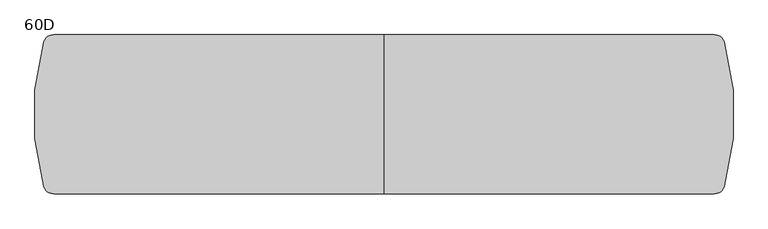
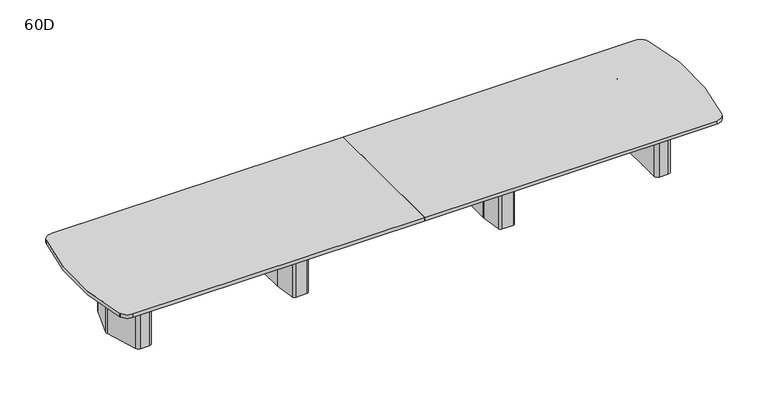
"""IFC4 building model written with IfcOpenShell, lengths in millimetres: furniture geometry, Coalesse_AM_Table_Conference_ETable2_SoftRadiused_22ft_FourBase : 60D."""

from ifc_helpers import new_model, si_unit, point, frame, frame_2d, origin, origin_with_axes, place, context, project, spatial, polyline, circle_curve, trimmed, segment, composite_curve, outline, extrude, source, transform, mapped, element, save
from ifc_brep_helpers import plane_surface, cylinder_surface, revolved_surface, advanced_brep


def furniture_60d_b9d1f58f(model_context):
    return source(origin(), model_context, "Body", "SolidModel", [
        advanced_brep(
        [(1178.6357815, 381.0, 698.5), (1056.5642185, 381.0, 698.5), (1031.4114006, 359.1349332, 698.5), (1000.3721821, 138.2753661, 698.5), (1000.125, 134.740433, 698.5), (1000.125, -134.7404196, 698.5), (1000.3721537, -138.2751502, 698.5), (1031.4095605, -359.1347306, 698.5), (1056.5624068, -381.0, 698.5), (1178.6375932, -381.0, 698.5), (1203.7904395, -359.1347306, 698.5), (1234.8278463, -138.2751502, 698.5), (1235.075, -134.7404196, 698.5), (1235.075, 134.740433, 698.5), (1234.8278179, 138.2753661, 698.5), (1203.7885994, 359.1349332, 698.5), (1143.0, 314.325, 698.5), (1168.4, 288.925, 698.5), (1168.4, -288.925, 698.5), (1143.0, -314.325, 698.5), (1092.2, -314.325, 698.5), (1066.8, -288.925, 698.5), (1066.8, 288.925, 698.5), (1092.2, 314.325, 698.5), (1178.6357815, 381.0, 3.175), (1203.7885994, 359.1349332, 3.175), (1234.8278179, 138.2753661, 3.175), (1235.075, 134.740433, 3.175), (1235.075, -134.7404196, 3.175), (1234.8278463, -138.2751502, 3.175), (1203.7904395, -359.1347306, 3.175), (1178.6375932, -381.0, 3.175), (1056.5624068, -381.0, 3.175), (1031.4095605, -359.1347306, 3.175), (1000.3721537, -138.2751502, 3.175), (1000.125, -134.7404196, 3.175), (1000.125, 134.740433, 3.175), (1000.3721821, 138.2753661, 3.175), (1031.4114006, 359.1349332, 3.175), (1056.5642185, 381.0, 3.175), (1143.0, 327.025, 3.175), (1092.2, 327.025, 3.175), (1054.1, 288.925, 3.175), (1054.1, -288.925, 3.175), (1092.2, -327.025, 3.175), (1143.0, -327.025, 3.175), (1181.1, -288.925, 3.175), (1181.1, 288.925, 3.175), (1143.0, 314.325, 3.175), (1168.4, 288.925, 3.175), (1168.4, -288.925, 3.175), (1143.0, -314.325, 3.175), (1092.2, -314.325, 3.175), (1066.8, -288.925, 3.175), (1066.8, 288.925, 3.175), (1092.2, 314.325, 3.175), (1143.0, 327.025, 0.0), (1181.1, 288.925, 0.0), (1181.1, -288.925, 0.0), (1143.0, -327.025, 0.0), (1092.2, -327.025, 0.0), (1054.1, -288.925, 0.0), (1054.1, 288.925, 0.0), (1092.2, 327.025, 0.0)],
        [
            (0, 1),
            (1, 2, circle_curve(frame((1056.5642185, 355.6, 698.5), z_axis=(0.0, 0.0, 1.0), x_axis=(1.0, 0.0, 0.0)), 25.4)),
            (2, 3),
            (3, 4, circle_curve(frame((1025.525, 134.740433, 698.5), z_axis=(0.0, 0.0, 1.0), x_axis=(1.0, 0.0, 0.0)), 25.4)),
            (4, 5),
            (5, 6, circle_curve(frame((1025.525, -134.7404196, 698.5), z_axis=(0.0, 0.0, 1.0), x_axis=(1.0, 0.0, 0.0)), 25.4)),
            (6, 7),
            (7, 8, circle_curve(frame((1056.5624068, -355.6, 698.5), z_axis=(0.0, 0.0, 1.0), x_axis=(1.0, 0.0, 0.0)), 25.4)),
            (8, 9),
            (9, 10, circle_curve(frame((1178.6375932, -355.6, 698.5), z_axis=(0.0, 0.0, 1.0), x_axis=(1.0, 0.0, 0.0)), 25.4)),
            (10, 11),
            (11, 12, circle_curve(frame((1209.675, -134.7404196, 698.5), z_axis=(0.0, 0.0, 1.0), x_axis=(1.0, 0.0, 0.0)), 25.4)),
            (12, 13),
            (13, 14, circle_curve(frame((1209.675, 134.740433, 698.5), z_axis=(0.0, 0.0, 1.0), x_axis=(1.0, 0.0, 0.0)), 25.4)),
            (14, 15),
            (15, 0, circle_curve(frame((1178.6357815, 355.6, 698.5), z_axis=(0.0, 0.0, 1.0), x_axis=(1.0, 0.0, 0.0)), 25.4)),
            (16, 17, circle_curve(frame((1143.0, 288.925, 698.5), z_axis=(0.0, 0.0, -1.0), x_axis=(1.0, 0.0, 0.0)), 25.4)),
            (17, 18),
            (18, 19, circle_curve(frame((1143.0, -288.925, 698.5), z_axis=(0.0, 0.0, -1.0), x_axis=(1.0, 0.0, 0.0)), 25.4)),
            (19, 20),
            (20, 21, circle_curve(frame((1092.2, -288.925, 698.5), z_axis=(0.0, 0.0, -1.0), x_axis=(1.0, 0.0, 0.0)), 25.4)),
            (21, 22),
            (22, 23, circle_curve(frame((1092.2, 288.925, 698.5), z_axis=(0.0, 0.0, -1.0), x_axis=(1.0, 0.0, 0.0)), 25.4)),
            (23, 16),
            (24, 25, circle_curve(frame((1178.6357815, 355.6, 3.175), z_axis=(0.0, 0.0, -1.0), x_axis=(1.0, 0.0, 0.0)), 25.4)),
            (25, 26),
            (26, 27, circle_curve(frame((1209.675, 134.740433, 3.175), z_axis=(0.0, 0.0, -1.0), x_axis=(1.0, 0.0, 0.0)), 25.4)),
            (27, 28),
            (28, 29, circle_curve(frame((1209.675, -134.7404196, 3.175), z_axis=(0.0, 0.0, -1.0), x_axis=(1.0, 0.0, 0.0)), 25.4)),
            (29, 30),
            (30, 31, circle_curve(frame((1178.6375932, -355.6, 3.175), z_axis=(0.0, 0.0, -1.0), x_axis=(1.0, 0.0, 0.0)), 25.4)),
            (31, 32),
            (32, 33, circle_curve(frame((1056.5624068, -355.6, 3.175), z_axis=(0.0, 0.0, -1.0), x_axis=(1.0, 0.0, 0.0)), 25.4)),
            (33, 34),
            (34, 35, circle_curve(frame((1025.525, -134.7404196, 3.175), z_axis=(0.0, 0.0, -1.0), x_axis=(1.0, 0.0, 0.0)), 25.4)),
            (35, 36),
            (36, 37, circle_curve(frame((1025.525, 134.740433, 3.175), z_axis=(0.0, 0.0, -1.0), x_axis=(1.0, 0.0, 0.0)), 25.4)),
            (37, 38),
            (38, 39, circle_curve(frame((1056.5642185, 355.6, 3.175), z_axis=(0.0, 0.0, -1.0), x_axis=(1.0, 0.0, 0.0)), 25.4)),
            (39, 24),
            (40, 41),
            (41, 42, circle_curve(frame((1092.2, 288.925, 3.175), z_axis=(0.0, 0.0, 1.0), x_axis=(1.0, 0.0, 0.0)), 38.1)),
            (42, 43),
            (43, 44, circle_curve(frame((1092.2, -288.925, 3.175), z_axis=(0.0, 0.0, 1.0), x_axis=(1.0, 0.0, 0.0)), 38.1)),
            (44, 45),
            (45, 46, circle_curve(frame((1143.0, -288.925, 3.175), z_axis=(0.0, 0.0, 1.0), x_axis=(1.0, 0.0, 0.0)), 38.1)),
            (46, 47),
            (47, 40, circle_curve(frame((1143.0, 288.925, 3.175), z_axis=(0.0, 0.0, 1.0), x_axis=(1.0, 0.0, 0.0)), 38.1)),
            (0, 24),
            (39, 1),
            (38, 2),
            (37, 3),
            (36, 4),
            (35, 5),
            (34, 6),
            (33, 7),
            (32, 8),
            (31, 9),
            (30, 10),
            (29, 11),
            (28, 12),
            (27, 13),
            (26, 14),
            (25, 15),
            (16, 48),
            (48, 49, circle_curve(frame((1143.0, 288.925, 3.175), z_axis=(0.0, 0.0, -1.0), x_axis=(1.0, 0.0, 0.0)), 25.4)),
            (49, 17),
            (49, 50),
            (50, 18),
            (50, 51, circle_curve(frame((1143.0, -288.925, 3.175), z_axis=(0.0, 0.0, -1.0), x_axis=(1.0, 0.0, 0.0)), 25.4)),
            (51, 19),
            (51, 52),
            (52, 20),
            (52, 53, circle_curve(frame((1092.2, -288.925, 3.175), z_axis=(0.0, 0.0, -1.0), x_axis=(1.0, 0.0, 0.0)), 25.4)),
            (53, 21),
            (53, 54),
            (54, 22),
            (54, 55, circle_curve(frame((1092.2, 288.925, 3.175), z_axis=(0.0, 0.0, -1.0), x_axis=(1.0, 0.0, 0.0)), 25.4)),
            (55, 23),
            (55, 48),
            (56, 57, circle_curve(frame((1143.0, 288.925, 0.0), z_axis=(0.0, 0.0, -1.0), x_axis=(1.0, 0.0, 0.0)), 38.1)),
            (57, 58),
            (58, 59, circle_curve(frame((1143.0, -288.925, 0.0), z_axis=(0.0, 0.0, -1.0), x_axis=(1.0, 0.0, 0.0)), 38.1)),
            (59, 60),
            (60, 61, circle_curve(frame((1092.2, -288.925, 0.0), z_axis=(0.0, 0.0, -1.0), x_axis=(1.0, 0.0, 0.0)), 38.1)),
            (61, 62),
            (62, 63, circle_curve(frame((1092.2, 288.925, 0.0), z_axis=(0.0, 0.0, -1.0), x_axis=(1.0, 0.0, 0.0)), 38.1)),
            (63, 56),
            (63, 41),
            (40, 56),
            (62, 42),
            (61, 43),
            (60, 44),
            (59, 45),
            (58, 46),
            (57, 47),
        ],
        [
            plane_surface(frame((-406.4, 381.0, 698.5), z_axis=(0.0, 0.0, 1.0), x_axis=(-1.0, 0.0, 0.0))),
            plane_surface(frame((-406.4, 381.0, 3.175), z_axis=(0.0, 0.0, -1.0), x_axis=(1.0, 0.0, 0.0))),
            plane_surface(frame((1178.6357815, 381.0, 698.5), z_axis=(0.0, 1.0, 0.0), x_axis=(0.0, 0.0, -1.0))),
            cylinder_surface(frame((1056.5642185, 355.6, 3.175), z_axis=(0.0, 0.0, 1.0), x_axis=(1.0, 0.0, 0.0)), 25.4),
            plane_surface(frame((1031.4114006, 359.1349332, 698.5), z_axis=(-0.9902684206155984, 0.13917059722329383, 0.0), x_axis=(0.0, 0.0, -1.0))),
            cylinder_surface(frame((1025.525, 134.740433, 3.175), z_axis=(0.0, 0.0, 1.0), x_axis=(1.0, 0.0, 0.0)), 25.4),
            plane_surface(frame((1000.125, 134.740433, 698.5), z_axis=(-1.0, 0.0, 0.0), x_axis=(0.0, 0.0, -1.0))),
            cylinder_surface(frame((1025.525, -134.7404196, 3.175), z_axis=(0.0, 0.0, 1.0), x_axis=(1.0, 0.0, 0.0)), 25.4),
            plane_surface(frame((1000.3721537, -138.2751502, 698.5), z_axis=(-0.9902695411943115, -0.1391626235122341, 0.0), x_axis=(0.0, 0.0, -1.0))),
            cylinder_surface(frame((1056.5624068, -355.6, 3.175), z_axis=(0.0, 0.0, 1.0), x_axis=(1.0, 0.0, 0.0)), 25.4),
            plane_surface(frame((1056.5624068, -381.0, 698.5), z_axis=(0.0, -1.0, 0.0), x_axis=(0.0, 0.0, -1.0))),
            cylinder_surface(frame((1178.6375932, -355.6, 3.175), z_axis=(0.0, 0.0, 1.0), x_axis=(1.0, 0.0, 0.0)), 25.4),
            plane_surface(frame((1203.7904395, -359.1347306, 698.5), z_axis=(0.9902695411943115, -0.1391626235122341, 0.0), x_axis=(0.0, 0.0, -1.0))),
            cylinder_surface(frame((1209.675, -134.7404196, 3.175), z_axis=(0.0, 0.0, 1.0), x_axis=(1.0, 0.0, 0.0)), 25.4),
            plane_surface(frame((1235.075, -134.7404196, 698.5), z_axis=(1.0, 0.0, 0.0), x_axis=(0.0, 0.0, -1.0))),
            cylinder_surface(frame((1209.675, 134.740433, 3.175), z_axis=(0.0, 0.0, 1.0), x_axis=(1.0, 0.0, 0.0)), 25.4),
            plane_surface(frame((1234.8278179, 138.2753661, 698.5), z_axis=(0.9902684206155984, 0.13917059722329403, 0.0), x_axis=(0.0, 0.0, -1.0))),
            cylinder_surface(frame((1178.6357815, 355.6, 3.175), z_axis=(0.0, 0.0, 1.0), x_axis=(1.0, 0.0, 0.0)), 25.4),
            revolved_surface(polyline([(1168.4, 288.925, 3.175), (1168.4, 288.925, 698.5)]), (1143.0, 288.925, 0.0), (0.0, 0.0, -1.0)),
            plane_surface(frame((1168.4, 288.925, 698.5), z_axis=(-1.0, 0.0, 0.0), x_axis=(0.0, 0.0, -1.0))),
            revolved_surface(polyline([(1168.4, -288.925, 3.175), (1168.4, -288.925, 698.5)]), (1143.0, -288.925, 0.0), (0.0, 0.0, -1.0)),
            plane_surface(frame((1143.0, -314.325, 698.5), z_axis=(0.0, 1.0, 0.0), x_axis=(0.0, 0.0, -1.0))),
            revolved_surface(polyline([(1117.6000000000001, -288.925, 3.175), (1117.6000000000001, -288.925, 698.5)]), (1092.2, -288.925, 0.0), (0.0, 0.0, -1.0)),
            plane_surface(frame((1066.8, -288.925, 698.5), z_axis=(1.0, 0.0, 0.0), x_axis=(0.0, 0.0, -1.0))),
            revolved_surface(polyline([(1117.6000000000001, 288.925, 3.175), (1117.6000000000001, 288.925, 698.5)]), (1092.2, 288.925, 0.0), (0.0, 0.0, -1.0)),
            plane_surface(frame((1092.2, 314.325, 698.5), z_axis=(0.0, -1.0, 0.0), x_axis=(0.0, 0.0, -1.0))),
            plane_surface(frame((1066.8, 327.025, 3.175), z_axis=(0.0, 0.0, 1.0), x_axis=(-1.0, 0.0, 0.0))),
            plane_surface(frame((1066.8, 327.025, 0.0), z_axis=(0.0, 0.0, -1.0), x_axis=(1.0, 0.0, 0.0))),
            plane_surface(frame((1143.0, 327.025, 3.175), z_axis=(0.0, 1.0, 0.0), x_axis=(0.0, 0.0, -1.0))),
            cylinder_surface(frame((1092.2, 288.925, 0.0), z_axis=(0.0, 0.0, 1.0), x_axis=(1.0, 0.0, 0.0)), 38.1),
            plane_surface(frame((1054.1, 288.925, 3.175), z_axis=(-1.0, 0.0, 0.0), x_axis=(0.0, 0.0, -1.0))),
            cylinder_surface(frame((1092.2, -288.925, 0.0), z_axis=(0.0, 0.0, 1.0), x_axis=(1.0, 0.0, 0.0)), 38.1),
            plane_surface(frame((1092.2, -327.025, 3.175), z_axis=(0.0, -1.0, 0.0), x_axis=(0.0, 0.0, -1.0))),
            cylinder_surface(frame((1143.0, -288.925, 0.0), z_axis=(0.0, 0.0, 1.0), x_axis=(1.0, 0.0, 0.0)), 38.1),
            plane_surface(frame((1181.1, -288.925, 3.175), z_axis=(1.0, 0.0, 0.0), x_axis=(0.0, 0.0, -1.0))),
            cylinder_surface(frame((1143.0, 288.925, 0.0), z_axis=(0.0, 0.0, 1.0), x_axis=(1.0, 0.0, 0.0)), 38.1),
        ],
        [
            (0, [[1, 2, 3, 4, 5, 6, 7, 8, 9, 10, 11, 12, 13, 14, 15, 16], [17, 18, 19, 20, 21, 22, 23, 24]]),
            (1, [[25, 26, 27, 28, 29, 30, 31, 32, 33, 34, 35, 36, 37, 38, 39, 40], [41, 42, 43, 44, 45, 46, 47, 48]]),
            (2, [[-1, 49, -40, 50]]),
            (3, [[-2, -50, -39, 51]]),
            (4, [[-3, -51, -38, 52]]),
            (5, [[-4, -52, -37, 53]]),
            (6, [[-5, -53, -36, 54]]),
            (7, [[-6, -54, -35, 55]]),
            (8, [[-7, -55, -34, 56]]),
            (9, [[-8, -56, -33, 57]]),
            (10, [[-9, -57, -32, 58]]),
            (11, [[-10, -58, -31, 59]]),
            (12, [[-11, -59, -30, 60]]),
            (13, [[-12, -60, -29, 61]]),
            (14, [[-13, -61, -28, 62]]),
            (15, [[-14, -62, -27, 63]]),
            (16, [[-15, -63, -26, 64]]),
            (17, [[-16, -64, -25, -49]]),
            (18, [[-17, 65, 66, 67]]),
            (19, [[-18, -67, 68, 69]]),
            (20, [[-19, -69, 70, 71]]),
            (21, [[-20, -71, 72, 73]]),
            (22, [[-21, -73, 74, 75]]),
            (23, [[-22, -75, 76, 77]]),
            (24, [[-23, -77, 78, 79]]),
            (25, [[-24, -79, 80, -65]]),
            (26, [[-66, -80, -78, -76, -74, -72, -70, -68]]),
            (27, [[81, 82, 83, 84, 85, 86, 87, 88]]),
            (28, [[-88, 89, -41, 90]]),
            (29, [[-87, 91, -42, -89]]),
            (30, [[-86, 92, -43, -91]]),
            (31, [[-85, 93, -44, -92]]),
            (32, [[-84, 94, -45, -93]]),
            (33, [[-83, 95, -46, -94]]),
            (34, [[-82, 96, -47, -95]]),
            (35, [[-81, -90, -48, -96]]),
        ],
    ),
        advanced_brep(
        [(-1056.5642185, 381.0, 698.5), (-1178.6357815, 381.0, 698.5), (-1203.7885994, 359.1349332, 698.5), (-1234.8278179, 138.2753661, 698.5), (-1235.075, 134.740433, 698.5), (-1235.075, -134.7404196, 698.5), (-1234.8278463, -138.2751502, 698.5), (-1203.7904395, -359.1347306, 698.5), (-1178.6375932, -381.0, 698.5), (-1056.5624068, -381.0, 698.5), (-1031.4095605, -359.1347306, 698.5), (-1000.3721537, -138.2751502, 698.5), (-1000.125, -134.7404196, 698.5), (-1000.125, 134.740433, 698.5), (-1000.3721821, 138.2753661, 698.5), (-1031.4114006, 359.1349332, 698.5), (-1092.2, 314.325, 698.5), (-1066.8, 288.925, 698.5), (-1066.8, -288.925, 698.5), (-1092.2, -314.325, 698.5), (-1143.0, -314.325, 698.5), (-1168.4, -288.925, 698.5), (-1168.4, 288.925, 698.5), (-1143.0, 314.325, 698.5), (-1056.5642185, 381.0, 3.175), (-1031.4114006, 359.1349332, 3.175), (-1000.3721821, 138.2753661, 3.175), (-1000.125, 134.740433, 3.175), (-1000.125, -134.7404196, 3.175), (-1000.3721537, -138.2751502, 3.175), (-1031.4095605, -359.1347306, 3.175), (-1056.5624068, -381.0, 3.175), (-1178.6375932, -381.0, 3.175), (-1203.7904395, -359.1347306, 3.175), (-1234.8278463, -138.2751502, 3.175), (-1235.075, -134.7404196, 3.175), (-1235.075, 134.740433, 3.175), (-1234.8278179, 138.2753661, 3.175), (-1203.7885994, 359.1349332, 3.175), (-1178.6357815, 381.0, 3.175), (-1092.2, 327.025, 3.175), (-1143.0, 327.025, 3.175), (-1181.1, 288.925, 3.175), (-1181.1, -288.925, 3.175), (-1143.0, -327.025, 3.175), (-1092.2, -327.025, 3.175), (-1054.1, -288.925, 3.175), (-1054.1, 288.925, 3.175), (-1092.2, 314.325, 3.175), (-1066.8, 288.925, 3.175), (-1066.8, -288.925, 3.175), (-1092.2, -314.325, 3.175), (-1143.0, -314.325, 3.175), (-1168.4, -288.925, 3.175), (-1168.4, 288.925, 3.175), (-1143.0, 314.325, 3.175), (-1092.2, 327.025, 0.0), (-1054.1, 288.925, 0.0), (-1054.1, -288.925, 0.0), (-1092.2, -327.025, 0.0), (-1143.0, -327.025, 0.0), (-1181.1, -288.925, 0.0), (-1181.1, 288.925, 0.0), (-1143.0, 327.025, 0.0)],
        [
            (0, 1),
            (1, 2, circle_curve(frame((-1178.6357815, 355.6, 698.5), z_axis=(0.0, 0.0, 1.0), x_axis=(1.0, 0.0, 0.0)), 25.4)),
            (2, 3),
            (3, 4, circle_curve(frame((-1209.675, 134.740433, 698.5), z_axis=(0.0, 0.0, 1.0), x_axis=(1.0, 0.0, 0.0)), 25.4)),
            (4, 5),
            (5, 6, circle_curve(frame((-1209.675, -134.7404196, 698.5), z_axis=(0.0, 0.0, 1.0), x_axis=(1.0, 0.0, 0.0)), 25.4)),
            (6, 7),
            (7, 8, circle_curve(frame((-1178.6375932, -355.6, 698.5), z_axis=(0.0, 0.0, 1.0), x_axis=(1.0, 0.0, 0.0)), 25.4)),
            (8, 9),
            (9, 10, circle_curve(frame((-1056.5624068, -355.6, 698.5), z_axis=(0.0, 0.0, 1.0), x_axis=(1.0, 0.0, 0.0)), 25.4)),
            (10, 11),
            (11, 12, circle_curve(frame((-1025.525, -134.7404196, 698.5), z_axis=(0.0, 0.0, 1.0), x_axis=(1.0, 0.0, 0.0)), 25.4)),
            (12, 13),
            (13, 14, circle_curve(frame((-1025.525, 134.740433, 698.5), z_axis=(0.0, 0.0, 1.0), x_axis=(1.0, 0.0, 0.0)), 25.4)),
            (14, 15),
            (15, 0, circle_curve(frame((-1056.5642185, 355.6, 698.5), z_axis=(0.0, 0.0, 1.0), x_axis=(1.0, 0.0, 0.0)), 25.4)),
            (16, 17, circle_curve(frame((-1092.2, 288.925, 698.5), z_axis=(0.0, 0.0, -1.0), x_axis=(1.0, 0.0, 0.0)), 25.4)),
            (17, 18),
            (18, 19, circle_curve(frame((-1092.2, -288.925, 698.5), z_axis=(0.0, 0.0, -1.0), x_axis=(1.0, 0.0, 0.0)), 25.4)),
            (19, 20),
            (20, 21, circle_curve(frame((-1143.0, -288.925, 698.5), z_axis=(0.0, 0.0, -1.0), x_axis=(1.0, 0.0, 0.0)), 25.4)),
            (21, 22),
            (22, 23, circle_curve(frame((-1143.0, 288.925, 698.5), z_axis=(0.0, 0.0, -1.0), x_axis=(1.0, 0.0, 0.0)), 25.4)),
            (23, 16),
            (24, 25, circle_curve(frame((-1056.5642185, 355.6, 3.175), z_axis=(0.0, 0.0, -1.0), x_axis=(1.0, 0.0, 0.0)), 25.4)),
            (25, 26),
            (26, 27, circle_curve(frame((-1025.525, 134.740433, 3.175), z_axis=(0.0, 0.0, -1.0), x_axis=(1.0, 0.0, 0.0)), 25.4)),
            (27, 28),
            (28, 29, circle_curve(frame((-1025.525, -134.7404196, 3.175), z_axis=(0.0, 0.0, -1.0), x_axis=(1.0, 0.0, 0.0)), 25.4)),
            (29, 30),
            (30, 31, circle_curve(frame((-1056.5624068, -355.6, 3.175), z_axis=(0.0, 0.0, -1.0), x_axis=(1.0, 0.0, 0.0)), 25.4)),
            (31, 32),
            (32, 33, circle_curve(frame((-1178.6375932, -355.6, 3.175), z_axis=(0.0, 0.0, -1.0), x_axis=(1.0, 0.0, 0.0)), 25.4)),
            (33, 34),
            (34, 35, circle_curve(frame((-1209.675, -134.7404196, 3.175), z_axis=(0.0, 0.0, -1.0), x_axis=(1.0, 0.0, 0.0)), 25.4)),
            (35, 36),
            (36, 37, circle_curve(frame((-1209.675, 134.740433, 3.175), z_axis=(0.0, 0.0, -1.0), x_axis=(1.0, 0.0, 0.0)), 25.4)),
            (37, 38),
            (38, 39, circle_curve(frame((-1178.6357815, 355.6, 3.175), z_axis=(0.0, 0.0, -1.0), x_axis=(1.0, 0.0, 0.0)), 25.4)),
            (39, 24),
            (40, 41),
            (41, 42, circle_curve(frame((-1143.0, 288.925, 3.175), z_axis=(0.0, 0.0, 1.0), x_axis=(1.0, 0.0, 0.0)), 38.1)),
            (42, 43),
            (43, 44, circle_curve(frame((-1143.0, -288.925, 3.175), z_axis=(0.0, 0.0, 1.0), x_axis=(1.0, 0.0, 0.0)), 38.1)),
            (44, 45),
            (45, 46, circle_curve(frame((-1092.2, -288.925, 3.175), z_axis=(0.0, 0.0, 1.0), x_axis=(1.0, 0.0, 0.0)), 38.1)),
            (46, 47),
            (47, 40, circle_curve(frame((-1092.2, 288.925, 3.175), z_axis=(0.0, 0.0, 1.0), x_axis=(1.0, 0.0, 0.0)), 38.1)),
            (0, 24),
            (39, 1),
            (38, 2),
            (37, 3),
            (36, 4),
            (35, 5),
            (34, 6),
            (33, 7),
            (32, 8),
            (31, 9),
            (30, 10),
            (29, 11),
            (28, 12),
            (27, 13),
            (26, 14),
            (25, 15),
            (16, 48),
            (48, 49, circle_curve(frame((-1092.2, 288.925, 3.175), z_axis=(0.0, 0.0, -1.0), x_axis=(1.0, 0.0, 0.0)), 25.4)),
            (49, 17),
            (49, 50),
            (50, 18),
            (50, 51, circle_curve(frame((-1092.2, -288.925, 3.175), z_axis=(0.0, 0.0, -1.0), x_axis=(1.0, 0.0, 0.0)), 25.4)),
            (51, 19),
            (51, 52),
            (52, 20),
            (52, 53, circle_curve(frame((-1143.0, -288.925, 3.175), z_axis=(0.0, 0.0, -1.0), x_axis=(1.0, 0.0, 0.0)), 25.4)),
            (53, 21),
            (53, 54),
            (54, 22),
            (54, 55, circle_curve(frame((-1143.0, 288.925, 3.175), z_axis=(0.0, 0.0, -1.0), x_axis=(1.0, 0.0, 0.0)), 25.4)),
            (55, 23),
            (55, 48),
            (56, 57, circle_curve(frame((-1092.2, 288.925, 0.0), z_axis=(0.0, 0.0, -1.0), x_axis=(1.0, 0.0, 0.0)), 38.1)),
            (57, 58),
            (58, 59, circle_curve(frame((-1092.2, -288.925, 0.0), z_axis=(0.0, 0.0, -1.0), x_axis=(1.0, 0.0, 0.0)), 38.1)),
            (59, 60),
            (60, 61, circle_curve(frame((-1143.0, -288.925, 0.0), z_axis=(0.0, 0.0, -1.0), x_axis=(1.0, 0.0, 0.0)), 38.1)),
            (61, 62),
            (62, 63, circle_curve(frame((-1143.0, 288.925, 0.0), z_axis=(0.0, 0.0, -1.0), x_axis=(1.0, 0.0, 0.0)), 38.1)),
            (63, 56),
            (63, 41),
            (40, 56),
            (62, 42),
            (61, 43),
            (60, 44),
            (59, 45),
            (58, 46),
            (57, 47),
        ],
        [
            plane_surface(frame((-2641.6, 381.0, 698.5), z_axis=(0.0, 0.0, 1.0), x_axis=(-1.0, 0.0, 0.0))),
            plane_surface(frame((-2641.6, 381.0, 3.175), z_axis=(0.0, 0.0, -1.0), x_axis=(1.0, 0.0, 0.0))),
            plane_surface(frame((-1056.5642185, 381.0, 698.5), z_axis=(0.0, 1.0, 0.0), x_axis=(0.0, 0.0, -1.0))),
            cylinder_surface(frame((-1178.6357815, 355.6, 3.175), z_axis=(0.0, 0.0, 1.0), x_axis=(1.0, 0.0, 0.0)), 25.4),
            plane_surface(frame((-1203.7885994, 359.1349332, 698.5), z_axis=(-0.9902684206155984, 0.13917059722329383, 0.0), x_axis=(0.0, 0.0, -1.0))),
            cylinder_surface(frame((-1209.675, 134.740433, 3.175), z_axis=(0.0, 0.0, 1.0), x_axis=(1.0, 0.0, 0.0)), 25.4),
            plane_surface(frame((-1235.075, 134.740433, 698.5), z_axis=(-1.0, 0.0, 0.0), x_axis=(0.0, 0.0, -1.0))),
            cylinder_surface(frame((-1209.675, -134.7404196, 3.175), z_axis=(0.0, 0.0, 1.0), x_axis=(1.0, 0.0, 0.0)), 25.4),
            plane_surface(frame((-1234.8278463, -138.2751502, 698.5), z_axis=(-0.9902695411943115, -0.1391626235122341, 0.0), x_axis=(0.0, 0.0, -1.0))),
            cylinder_surface(frame((-1178.6375932, -355.6, 3.175), z_axis=(0.0, 0.0, 1.0), x_axis=(1.0, 0.0, 0.0)), 25.4),
            plane_surface(frame((-1178.6375932, -381.0, 698.5), z_axis=(0.0, -1.0, 0.0), x_axis=(0.0, 0.0, -1.0))),
            cylinder_surface(frame((-1056.5624068, -355.6, 3.175), z_axis=(0.0, 0.0, 1.0), x_axis=(1.0, 0.0, 0.0)), 25.4),
            plane_surface(frame((-1031.4095605, -359.1347306, 698.5), z_axis=(0.9902695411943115, -0.1391626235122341, 0.0), x_axis=(0.0, 0.0, -1.0))),
            cylinder_surface(frame((-1025.525, -134.7404196, 3.175), z_axis=(0.0, 0.0, 1.0), x_axis=(1.0, 0.0, 0.0)), 25.4),
            plane_surface(frame((-1000.125, -134.7404196, 698.5), z_axis=(1.0, 0.0, 0.0), x_axis=(0.0, 0.0, -1.0))),
            cylinder_surface(frame((-1025.525, 134.740433, 3.175), z_axis=(0.0, 0.0, 1.0), x_axis=(1.0, 0.0, 0.0)), 25.4),
            plane_surface(frame((-1000.3721821, 138.2753661, 698.5), z_axis=(0.9902684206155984, 0.13917059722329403, 0.0), x_axis=(0.0, 0.0, -1.0))),
            cylinder_surface(frame((-1056.5642185, 355.6, 3.175), z_axis=(0.0, 0.0, 1.0), x_axis=(1.0, 0.0, 0.0)), 25.4),
            revolved_surface(polyline([(-1066.8, 288.925, 3.175), (-1066.8, 288.925, 698.5)]), (-1092.2, 288.925, 0.0), (0.0, 0.0, -1.0)),
            plane_surface(frame((-1066.8, 288.925, 698.5), z_axis=(-1.0, 0.0, 0.0), x_axis=(0.0, 0.0, -1.0))),
            revolved_surface(polyline([(-1066.8, -288.925, 3.175), (-1066.8, -288.925, 698.5)]), (-1092.2, -288.925, 0.0), (0.0, 0.0, -1.0)),
            plane_surface(frame((-1092.2, -314.325, 698.5), z_axis=(0.0, 1.0, 0.0), x_axis=(0.0, 0.0, -1.0))),
            revolved_surface(polyline([(-1117.6, -288.925, 3.175), (-1117.6, -288.925, 698.5)]), (-1143.0, -288.925, 0.0), (0.0, 0.0, -1.0)),
            plane_surface(frame((-1168.4, -288.925, 698.5), z_axis=(1.0, 0.0, 0.0), x_axis=(0.0, 0.0, -1.0))),
            revolved_surface(polyline([(-1117.6, 288.925, 3.175), (-1117.6, 288.925, 698.5)]), (-1143.0, 288.925, 0.0), (0.0, 0.0, -1.0)),
            plane_surface(frame((-1143.0, 314.325, 698.5), z_axis=(0.0, -1.0, 0.0), x_axis=(0.0, 0.0, -1.0))),
            plane_surface(frame((-1168.4, 327.025, 3.175), z_axis=(0.0, 0.0, 1.0), x_axis=(-1.0, 0.0, 0.0))),
            plane_surface(frame((-1168.4, 327.025, 0.0), z_axis=(0.0, 0.0, -1.0), x_axis=(1.0, 0.0, 0.0))),
            plane_surface(frame((-1092.2, 327.025, 3.175), z_axis=(0.0, 1.0, 0.0), x_axis=(0.0, 0.0, -1.0))),
            cylinder_surface(frame((-1143.0, 288.925, 0.0), z_axis=(0.0, 0.0, 1.0), x_axis=(1.0, 0.0, 0.0)), 38.1),
            plane_surface(frame((-1181.1, 288.925, 3.175), z_axis=(-1.0, 0.0, 0.0), x_axis=(0.0, 0.0, -1.0))),
            cylinder_surface(frame((-1143.0, -288.925, 0.0), z_axis=(0.0, 0.0, 1.0), x_axis=(1.0, 0.0, 0.0)), 38.1),
            plane_surface(frame((-1143.0, -327.025, 3.175), z_axis=(0.0, -1.0, 0.0), x_axis=(0.0, 0.0, -1.0))),
            cylinder_surface(frame((-1092.2, -288.925, 0.0), z_axis=(0.0, 0.0, 1.0), x_axis=(1.0, 0.0, 0.0)), 38.1),
            plane_surface(frame((-1054.1, -288.925, 3.175), z_axis=(1.0, 0.0, 0.0), x_axis=(0.0, 0.0, -1.0))),
            cylinder_surface(frame((-1092.2, 288.925, 0.0), z_axis=(0.0, 0.0, 1.0), x_axis=(1.0, 0.0, 0.0)), 38.1),
        ],
        [
            (0, [[1, 2, 3, 4, 5, 6, 7, 8, 9, 10, 11, 12, 13, 14, 15, 16], [17, 18, 19, 20, 21, 22, 23, 24]]),
            (1, [[25, 26, 27, 28, 29, 30, 31, 32, 33, 34, 35, 36, 37, 38, 39, 40], [41, 42, 43, 44, 45, 46, 47, 48]]),
            (2, [[-1, 49, -40, 50]]),
            (3, [[-2, -50, -39, 51]]),
            (4, [[-3, -51, -38, 52]]),
            (5, [[-4, -52, -37, 53]]),
            (6, [[-5, -53, -36, 54]]),
            (7, [[-6, -54, -35, 55]]),
            (8, [[-7, -55, -34, 56]]),
            (9, [[-8, -56, -33, 57]]),
            (10, [[-9, -57, -32, 58]]),
            (11, [[-10, -58, -31, 59]]),
            (12, [[-11, -59, -30, 60]]),
            (13, [[-12, -60, -29, 61]]),
            (14, [[-13, -61, -28, 62]]),
            (15, [[-14, -62, -27, 63]]),
            (16, [[-15, -63, -26, 64]]),
            (17, [[-16, -64, -25, -49]]),
            (18, [[-17, 65, 66, 67]]),
            (19, [[-18, -67, 68, 69]]),
            (20, [[-19, -69, 70, 71]]),
            (21, [[-20, -71, 72, 73]]),
            (22, [[-21, -73, 74, 75]]),
            (23, [[-22, -75, 76, 77]]),
            (24, [[-23, -77, 78, 79]]),
            (25, [[-24, -79, 80, -65]]),
            (26, [[-66, -80, -78, -76, -74, -72, -70, -68]]),
            (27, [[81, 82, 83, 84, 85, 86, 87, 88]]),
            (28, [[-88, 89, -41, 90]]),
            (29, [[-87, 91, -42, -89]]),
            (30, [[-86, 92, -43, -91]]),
            (31, [[-85, 93, -44, -92]]),
            (32, [[-84, 94, -45, -93]]),
            (33, [[-83, 95, -46, -94]]),
            (34, [[-82, 96, -47, -95]]),
            (35, [[-81, -90, -48, -96]]),
        ],
    ),
        extrude(outline(composite_curve([segment(polyline([(2951.1625, 101.7236478), (2951.1625, -97.2761514)]), True, "CONTINUOUS"), segment(trimmed(circle_curve(frame_2d((2913.0625, -97.2761514)), 38.1), [point((2951.1625, -97.2761514))], [point((2949.3991129, -108.7330515))], False, "CARTESIAN"), True, "CONTINUOUS"), segment(polyline([(2949.3991129, -108.7330515), (2890.9745591, -294.0319001)]), True, "CONTINUOUS"), segment(trimmed(circle_curve(frame_2d((2854.6379462, -282.575)), 38.1), [point((2890.9745591, -294.0319001))], [point((2854.6379462, -320.675))], False, "CARTESIAN"), True, "CONTINUOUS"), segment(polyline([(2854.6379462, -320.675), (2787.65, -320.675)]), True, "CONTINUOUS"), segment(trimmed(circle_curve(frame_2d((2787.65, -282.575)), 38.1), [point((2787.65, -320.675))], [point((2749.55, -282.575))], False, "CARTESIAN"), True, "CONTINUOUS"), segment(polyline([(2749.55, -282.575), (2749.55, 282.575)]), True, "CONTINUOUS"), segment(trimmed(circle_curve(frame_2d((2787.65, 282.575)), 38.1), [point((2749.55, 282.575))], [point((2787.65, 320.675))], False, "CARTESIAN"), True, "CONTINUOUS"), segment(polyline([(2787.65, 320.675), (2858.3873998, 320.675)]), True, "CONTINUOUS"), segment(trimmed(circle_curve(frame_2d((2858.3873998, 282.575)), 38.1), [point((2858.3873998, 320.675))], [point((2894.8572049, 293.6005756))], False, "CARTESIAN"), True, "CONTINUOUS"), segment(polyline([(2894.8572049, 293.6005756), (2949.5323051, 112.7492234)]), True, "CONTINUOUS"), segment(trimmed(circle_curve(frame_2d((2913.0625, 101.7236478)), 38.1), [point((2949.5323051, 112.7492234))], [point((2951.1625, 101.7236478))], False, "CARTESIAN"), True, "CONTINUOUS")], self_intersect=False)), origin_with_axes(), (0.0, 0.0, 1.0), 3.175),
        extrude(outline(composite_curve([segment(polyline([(2771.775, 381.0), (2859.9221663, 381.0)]), True, "CONTINUOUS"), segment(trimmed(circle_curve(frame_2d((2859.9221663, 339.725)), 41.275), [point((2859.9221663, 381.0))], [point((2899.2868303, 352.1366418))], False, "CARTESIAN"), True, "CONTINUOUS"), segment(polyline([(2899.2868303, 352.1366418), (3006.4018053, 12.4116418)]), True, "CONTINUOUS"), segment(trimmed(circle_curve(frame_2d((2967.0371413, 0.0)), 41.275), [point((3006.4018053, 12.4116418))], [point((3006.4018053, -12.4116418))], False, "CARTESIAN"), True, "CONTINUOUS"), segment(polyline([(3006.4018053, -12.4116418), (2899.2868303, -352.1366418)]), True, "CONTINUOUS"), segment(trimmed(circle_curve(frame_2d((2859.9221663, -339.725)), 41.275), [point((2899.2868303, -352.1366418))], [point((2859.9221663, -381.0))], False, "CARTESIAN"), True, "CONTINUOUS"), segment(polyline([(2859.9221663, -381.0), (2765.425, -381.0)]), True, "CONTINUOUS"), segment(trimmed(circle_curve(frame_2d((2765.425, -339.725)), 41.275), [point((2765.425, -381.0))], [point((2724.15, -339.725))], False, "CARTESIAN"), True, "CONTINUOUS"), segment(polyline([(2724.15, -339.725), (2724.15, 333.375)]), True, "CONTINUOUS"), segment(trimmed(circle_curve(frame_2d((2771.775, 333.375)), 47.625), [point((2724.15, 333.375))], [point((2771.775, 381.0))], False, "CARTESIAN"), True, "CONTINUOUS")], self_intersect=False), holes=[composite_curve([segment(trimmed(circle_curve(frame_2d((2787.65, -282.575)), 25.4), [point((2762.25, -282.575))], [point((2787.65, -307.975))], True, "CARTESIAN"), True, "CONTINUOUS"), segment(polyline([(2787.65, -307.975), (2854.6379462, -307.975)]), True, "CONTINUOUS"), segment(trimmed(circle_curve(frame_2d((2854.6379462, -282.575)), 25.4), [point((2854.6379462, -307.975))], [point((2878.8623548, -290.2129334))], True, "CARTESIAN"), True, "CONTINUOUS"), segment(polyline([(2878.8623548, -290.2129334), (2937.2869086, -104.9140848)]), True, "CONTINUOUS"), segment(trimmed(circle_curve(frame_2d((2913.0625, -97.2761514)), 25.4), [point((2937.2869086, -104.9140848))], [point((2938.4625, -97.2761514))], True, "CARTESIAN"), True, "CONTINUOUS"), segment(polyline([(2938.4625, -97.2761514), (2938.4625, 101.7236478)]), True, "CONTINUOUS"), segment(trimmed(circle_curve(frame_2d((2913.0625, 101.7236478)), 25.4), [point((2938.4625, 101.7236478))], [point((2937.3757034, 109.0740316))], True, "CARTESIAN"), True, "CONTINUOUS"), segment(polyline([(2937.3757034, 109.0740316), (2882.7006032, 289.9253837)]), True, "CONTINUOUS"), segment(trimmed(circle_curve(frame_2d((2858.3873998, 282.575)), 25.4), [point((2882.7006032, 289.9253837))], [point((2858.3873998, 307.975))], True, "CARTESIAN"), True, "CONTINUOUS"), segment(polyline([(2858.3873998, 307.975), (2787.65, 307.975)]), True, "CONTINUOUS"), segment(trimmed(circle_curve(frame_2d((2787.65, 282.575)), 25.4), [point((2787.65, 307.975))], [point((2762.25, 282.575))], True, "CARTESIAN"), True, "CONTINUOUS"), segment(polyline([(2762.25, 282.575), (2762.25, -282.575)]), True, "CONTINUOUS")], self_intersect=False)]), frame((0.0, 0.0, 3.175), z_axis=(0.0, 0.0, 1.0), x_axis=(1.0, 0.0, 0.0)), (0.0, 0.0, 1.0), 695.325),
        extrude(outline(composite_curve([segment(trimmed(circle_curve(frame_2d((-2913.0625, 101.7236478)), 38.1), [point((-2951.1625, 101.7236478))], [point((-2949.5323051, 112.7492234))], False, "CARTESIAN"), True, "CONTINUOUS"), segment(polyline([(-2949.5323051, 112.7492234), (-2894.8572049, 293.6005756)]), True, "CONTINUOUS"), segment(trimmed(circle_curve(frame_2d((-2858.3873998, 282.575)), 38.1), [point((-2894.8572049, 293.6005756))], [point((-2858.3873998, 320.675))], False, "CARTESIAN"), True, "CONTINUOUS"), segment(polyline([(-2858.3873998, 320.675), (-2787.65, 320.675)]), True, "CONTINUOUS"), segment(trimmed(circle_curve(frame_2d((-2787.65, 282.575)), 38.1), [point((-2787.65, 320.675))], [point((-2749.55, 282.575))], False, "CARTESIAN"), True, "CONTINUOUS"), segment(polyline([(-2749.55, 282.575), (-2749.55, -282.575)]), True, "CONTINUOUS"), segment(trimmed(circle_curve(frame_2d((-2787.65, -282.575)), 38.1), [point((-2749.55, -282.575))], [point((-2787.65, -320.675))], False, "CARTESIAN"), True, "CONTINUOUS"), segment(polyline([(-2787.65, -320.675), (-2854.6379462, -320.675)]), True, "CONTINUOUS"), segment(trimmed(circle_curve(frame_2d((-2854.6379462, -282.575)), 38.1), [point((-2854.6379462, -320.675))], [point((-2890.9745591, -294.0319001))], False, "CARTESIAN"), True, "CONTINUOUS"), segment(polyline([(-2890.9745591, -294.0319001), (-2949.3991129, -108.7330515)]), True, "CONTINUOUS"), segment(trimmed(circle_curve(frame_2d((-2913.0625, -97.2761514)), 38.1), [point((-2949.3991129, -108.7330515))], [point((-2951.1625, -97.2761514))], False, "CARTESIAN"), True, "CONTINUOUS"), segment(polyline([(-2951.1625, -97.2761514), (-2951.1625, 101.7236478)]), True, "CONTINUOUS")], self_intersect=False)), origin_with_axes(), (0.0, 0.0, 1.0), 3.175),
        extrude(outline(composite_curve([segment(trimmed(circle_curve(frame_2d((-2771.775, 333.375)), 47.625), [point((-2771.775, 381.0))], [point((-2724.15, 333.375))], False, "CARTESIAN"), True, "CONTINUOUS"), segment(polyline([(-2724.15, 333.375), (-2724.15, -339.725)]), True, "CONTINUOUS"), segment(trimmed(circle_curve(frame_2d((-2765.425, -339.725)), 41.275), [point((-2724.15, -339.725))], [point((-2765.425, -381.0))], False, "CARTESIAN"), True, "CONTINUOUS"), segment(polyline([(-2765.425, -381.0), (-2859.9221663, -381.0)]), True, "CONTINUOUS"), segment(trimmed(circle_curve(frame_2d((-2859.9221663, -339.725)), 41.275), [point((-2859.9221663, -381.0))], [point((-2899.2868303, -352.1366418))], False, "CARTESIAN"), True, "CONTINUOUS"), segment(polyline([(-2899.2868303, -352.1366418), (-3006.4018053, -12.4116418)]), True, "CONTINUOUS"), segment(trimmed(circle_curve(frame_2d((-2967.0371413, 0.0)), 41.275), [point((-3006.4018053, -12.4116418))], [point((-3006.4018053, 12.4116418))], False, "CARTESIAN"), True, "CONTINUOUS"), segment(polyline([(-3006.4018053, 12.4116418), (-2899.2868303, 352.1366418)]), True, "CONTINUOUS"), segment(trimmed(circle_curve(frame_2d((-2859.9221663, 339.725)), 41.275), [point((-2899.2868303, 352.1366418))], [point((-2859.9221663, 381.0))], False, "CARTESIAN"), True, "CONTINUOUS"), segment(polyline([(-2859.9221663, 381.0), (-2771.775, 381.0)]), True, "CONTINUOUS")], self_intersect=False), holes=[composite_curve([segment(polyline([(-2762.25, -282.575), (-2762.25, 282.575)]), True, "CONTINUOUS"), segment(trimmed(circle_curve(frame_2d((-2787.65, 282.575)), 25.4), [point((-2762.25, 282.575))], [point((-2787.65, 307.975))], True, "CARTESIAN"), True, "CONTINUOUS"), segment(polyline([(-2787.65, 307.975), (-2858.3873998, 307.975)]), True, "CONTINUOUS"), segment(trimmed(circle_curve(frame_2d((-2858.3873998, 282.575)), 25.4), [point((-2858.3873998, 307.975))], [point((-2882.7006032, 289.9253837))], True, "CARTESIAN"), True, "CONTINUOUS"), segment(polyline([(-2882.7006032, 289.9253837), (-2937.3757034, 109.0740316)]), True, "CONTINUOUS"), segment(trimmed(circle_curve(frame_2d((-2913.0625, 101.7236478)), 25.4), [point((-2937.3757034, 109.0740316))], [point((-2938.4625, 101.7236478))], True, "CARTESIAN"), True, "CONTINUOUS"), segment(polyline([(-2938.4625, 101.7236478), (-2938.4625, -97.2761514)]), True, "CONTINUOUS"), segment(trimmed(circle_curve(frame_2d((-2913.0625, -97.2761514)), 25.4), [point((-2938.4625, -97.2761514))], [point((-2937.2869086, -104.9140848))], True, "CARTESIAN"), True, "CONTINUOUS"), segment(polyline([(-2937.2869086, -104.9140848), (-2878.8623548, -290.2129334)]), True, "CONTINUOUS"), segment(trimmed(circle_curve(frame_2d((-2854.6379462, -282.575)), 25.4), [point((-2878.8623548, -290.2129334))], [point((-2854.6379462, -307.975))], True, "CARTESIAN"), True, "CONTINUOUS"), segment(polyline([(-2854.6379462, -307.975), (-2787.65, -307.975)]), True, "CONTINUOUS"), segment(trimmed(circle_curve(frame_2d((-2787.65, -282.575)), 25.4), [point((-2787.65, -307.975))], [point((-2762.25, -282.575))], True, "CARTESIAN"), True, "CONTINUOUS")], self_intersect=False)]), frame((0.0, 0.0, 3.175), z_axis=(0.0, 0.0, 1.0), x_axis=(1.0, 0.0, 0.0)), (0.0, 0.0, 1.0), 695.325),
        extrude(outline(composite_curve([segment(polyline([(0.0, 91.2031434), (0.0, 762.0), (3163.6557965, 762.0)]), True, "CONTINUOUS"), segment(trimmed(circle_curve(frame_2d((3163.6557965, 660.4)), 101.6), [point((3163.6557965, 762.0))], [point((3259.4453259, 694.2662966))], False, "CARTESIAN"), True, "CONTINUOUS"), segment(polyline([(3259.4453259, 694.2662966), (3260.1956256, 692.1441026)]), True, "CONTINUOUS"), segment(trimmed(circle_curve(frame_2d((719.8842649, 0.0)), 2632.9157351), [point((3260.1956256, 692.1441026))], [point((3260.1956256, -692.1441026))], False, "CARTESIAN"), True, "CONTINUOUS"), segment(polyline([(3260.1956256, -692.1441026), (3259.4453259, -694.2662966)]), True, "CONTINUOUS"), segment(trimmed(circle_curve(frame_2d((3163.6557965, -660.4)), 101.6), [point((3259.4453259, -694.2662966))], [point((3163.6557965, -762.0))], False, "CARTESIAN"), True, "CONTINUOUS"), segment(polyline([(3163.6557965, -762.0), (0.0, -762.0), (0.0, 91.2031434)]), True, "CONTINUOUS")], self_intersect=False)), frame((0.0, 0.0, 698.5), z_axis=(0.0, 0.0, 1.0), x_axis=(1.0, 0.0, 0.0)), (0.0, 0.0, 1.0), 38.1),
        extrude(outline(composite_curve([segment(polyline([(0.0, 24.2458581), (0.0, -762.0), (-3163.6557965, -762.0)]), True, "CONTINUOUS"), segment(trimmed(circle_curve(frame_2d((-3163.6557965, -660.4)), 101.6), [point((-3163.6557965, -762.0))], [point((-3259.4453259, -694.2662966))], False, "CARTESIAN"), True, "CONTINUOUS"), segment(polyline([(-3259.4453259, -694.2662966), (-3260.1956256, -692.1441026)]), True, "CONTINUOUS"), segment(trimmed(circle_curve(frame_2d((-719.8842649, 0.0)), 2632.9157351), [point((-3260.1956256, -692.1441026))], [point((-3260.1956256, 692.1441026))], False, "CARTESIAN"), True, "CONTINUOUS"), segment(polyline([(-3260.1956256, 692.1441026), (-3259.4453259, 694.2662966)]), True, "CONTINUOUS"), segment(trimmed(circle_curve(frame_2d((-3163.6557965, 660.4)), 101.6), [point((-3259.4453259, 694.2662966))], [point((-3163.6557965, 762.0))], False, "CARTESIAN"), True, "CONTINUOUS"), segment(polyline([(-3163.6557965, 762.0), (0.0, 762.0), (0.0, 24.2458581)]), True, "CONTINUOUS")], self_intersect=False)), frame((0.0, 0.0, 698.5), z_axis=(0.0, 0.0, 1.0), x_axis=(1.0, 0.0, 0.0)), (0.0, 0.0, 1.0), 38.1),
        extrude(outline(polyline([(96.8375, 698.5), (103.1875, 698.5), (103.1875, 476.25), (-103.1875, 476.25), (-103.1875, 698.5), (-96.8375, 698.5), (-96.8375, 482.6), (96.8375, 482.6), (96.8375, 698.5)])), frame((-2724.15, 0.0, 0.0), z_axis=(1.0, 0.0, 0.0), x_axis=(0.0, 1.0, 0.0)), (0.0, 0.0, 1.0), 5448.3),
    ])


if __name__ == "__main__":
    model = new_model("IFC4")
    model_context = context("Model", 3, world=origin())
    ifc_project = project(units=[si_unit("LENGTHUNIT", "METRE", prefix="MILLI")], contexts=[model_context])
    site = spatial("IfcSite", under=ifc_project)
    building = spatial("IfcBuilding", under=site)
    placement = place(None, origin())
    furniture_60d_shape = furniture_60d_b9d1f58f(model_context)
    element("IfcFurniture", 1, ObjectType="Coalesse_AM_Table_Conference_ETable2_SoftRadiused_22ft_FourBase : 60D", at=placement, inside=building, context=model_context, shape_type="MappedRepresentation", body=[
        mapped(furniture_60d_shape, transform((0.0, 0.0, 0.0), x_axis=(1.0, 0.0, 0.0), y_axis=(0.0, 1.0, 0.0), z_axis=(0.0, 0.0, 1.0))),
    ])
    save(model, "model.ifc")
